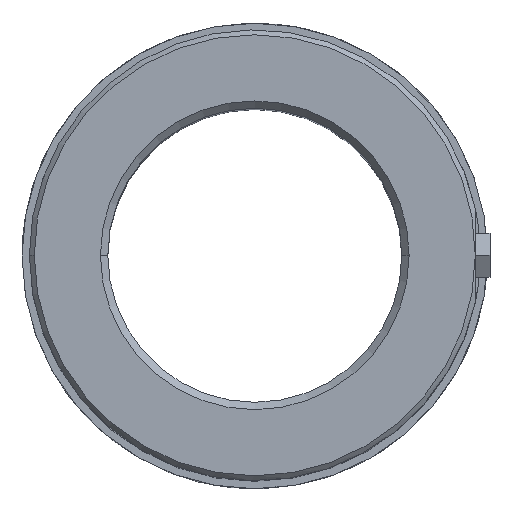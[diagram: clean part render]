
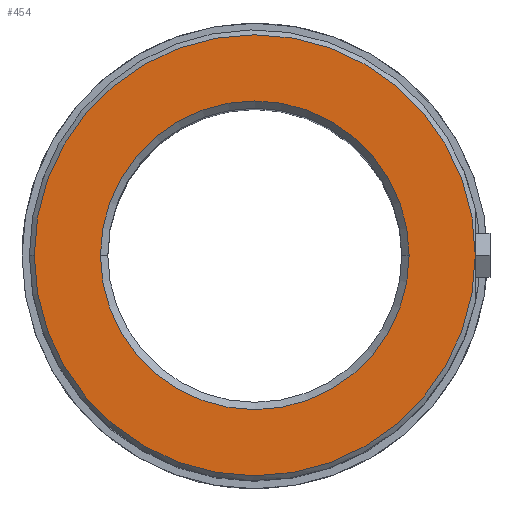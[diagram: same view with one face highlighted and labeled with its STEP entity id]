
A CAD part, top view. The second image highlights one B-rep face of the part: STEP entity #454.
In plain terms, the highlighted planar face has unit normal (0, 0, 1).
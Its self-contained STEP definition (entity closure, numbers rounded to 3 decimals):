
#336=CARTESIAN_POINT('Axis2P3D Location',(0.,0.,90.)) ;
#340=CARTESIAN_POINT('Vertex',(31.5,0.,90.)) ;
#342=CARTESIAN_POINT('Vertex',(-31.5,0.,90.)) ;
#398=CARTESIAN_POINT('Axis2P3D Location',(0.,0.,90.)) ;
#427=CARTESIAN_POINT('Axis2P3D Location',(31.5,0.,90.)) ;
#432=CARTESIAN_POINT('Axis2P3D Location',(0.,0.,90.)) ;
#436=CARTESIAN_POINT('Vertex',(45.,0.,90.)) ;
#438=CARTESIAN_POINT('Vertex',(-45.,0.,90.)) ;
#441=CARTESIAN_POINT('Axis2P3D Location',(0.,0.,90.)) ;
#337=DIRECTION('Axis2P3D Direction',(0.,-0.,1.)) ;
#399=DIRECTION('Axis2P3D Direction',(0.,-0.,1.)) ;
#428=DIRECTION('Axis2P3D Direction',(0.,-0.,1.)) ;
#429=DIRECTION('Axis2P3D XDirection',(1.,0.,0.)) ;
#433=DIRECTION('Axis2P3D Direction',(0.,-0.,1.)) ;
#442=DIRECTION('Axis2P3D Direction',(0.,-0.,1.)) ;
#338=AXIS2_PLACEMENT_3D('Circle Axis2P3D',#336,#337,$) ;
#400=AXIS2_PLACEMENT_3D('Circle Axis2P3D',#398,#399,$) ;
#430=AXIS2_PLACEMENT_3D('Plane Axis2P3D',#427,#428,#429) ;
#434=AXIS2_PLACEMENT_3D('Circle Axis2P3D',#432,#433,$) ;
#443=AXIS2_PLACEMENT_3D('Circle Axis2P3D',#441,#442,$) ;
#447=ORIENTED_EDGE('',*,*,#440,.T.) ;
#448=ORIENTED_EDGE('',*,*,#445,.T.) ;
#451=ORIENTED_EDGE('',*,*,#402,.F.) ;
#452=ORIENTED_EDGE('',*,*,#344,.F.) ;
#453=FACE_BOUND('',#450,.T.) ;
#454=ADVANCED_FACE('742-60',(#449,#453),#431,.T.) ;
#339=CIRCLE('generated circle',#338,31.5) ;
#401=CIRCLE('generated circle',#400,31.5) ;
#435=CIRCLE('generated circle',#434,45.) ;
#444=CIRCLE('generated circle',#443,45.) ;
#344=EDGE_CURVE('',#341,#343,#339,.T.) ;
#402=EDGE_CURVE('',#343,#341,#401,.T.) ;
#440=EDGE_CURVE('',#437,#439,#435,.T.) ;
#445=EDGE_CURVE('',#439,#437,#444,.T.) ;
#446=EDGE_LOOP('',(#447,#448)) ;
#450=EDGE_LOOP('',(#451,#452)) ;
#449=FACE_OUTER_BOUND('',#446,.T.) ;
#431=PLANE('Plane',#430) ;
#341=VERTEX_POINT('',#340) ;
#343=VERTEX_POINT('',#342) ;
#437=VERTEX_POINT('',#436) ;
#439=VERTEX_POINT('',#438) ;
